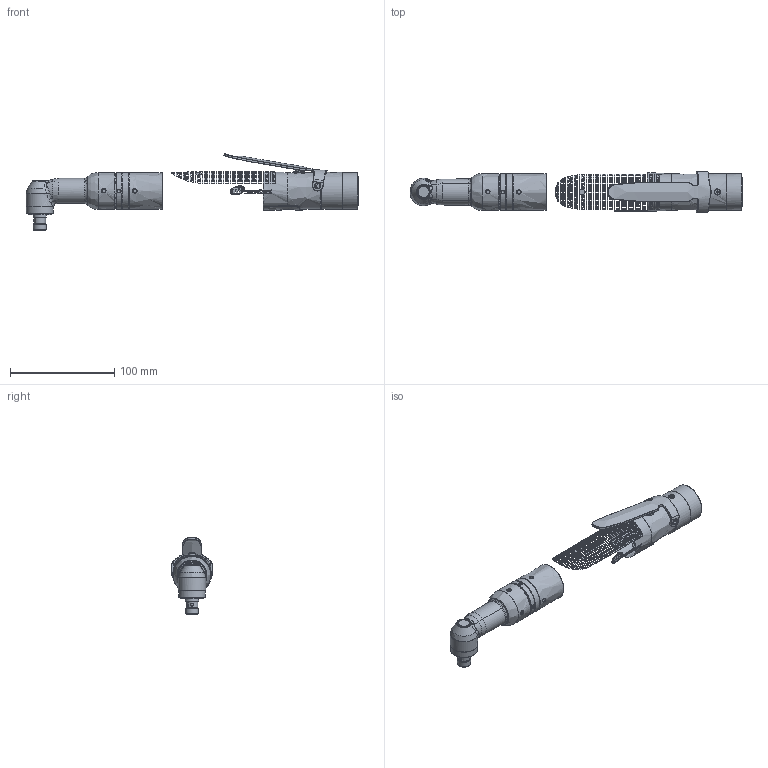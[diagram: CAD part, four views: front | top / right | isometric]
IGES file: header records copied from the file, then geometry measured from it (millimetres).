
Global section: file name: G:\Eng_Shared\PF\SURF MODELS\QE-QM\QE\QE2\Angle\16610123_A.igs; native system: NX V4.0; preprocessor: UGS NX IGES V4.0; date: 20090218.095747; units: millimetre
Bounding box: 318.5 x 39.38 x 74.12 mm (x, y, z)
Surface area: 42299.7 mm2 (no closed solid volume)
Topology: 0 solids, 0 shells, 1138 faces, 7410 edges, 7191 vertices
Faces by surface type: bspline 1138
